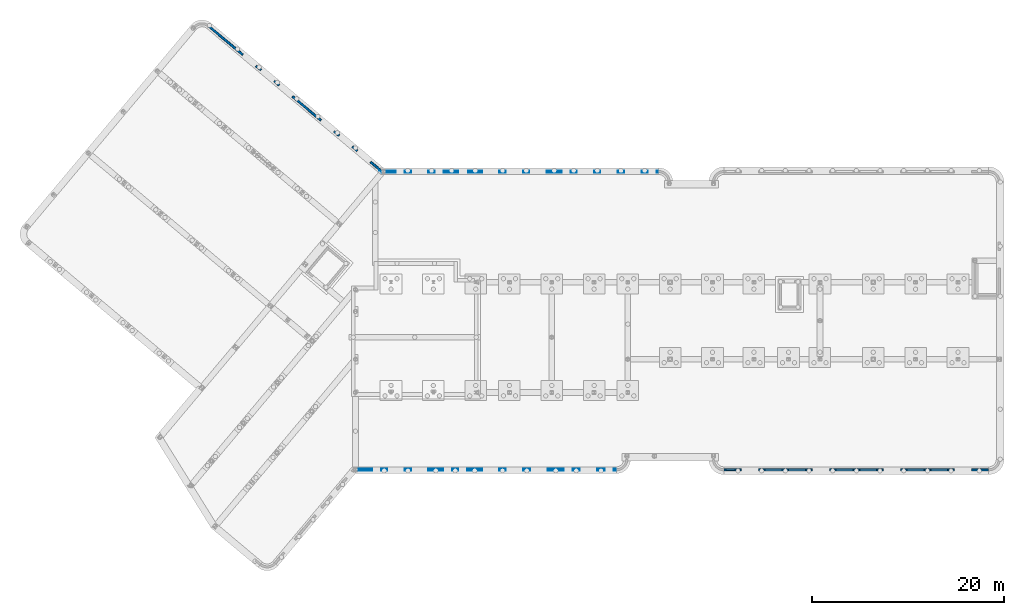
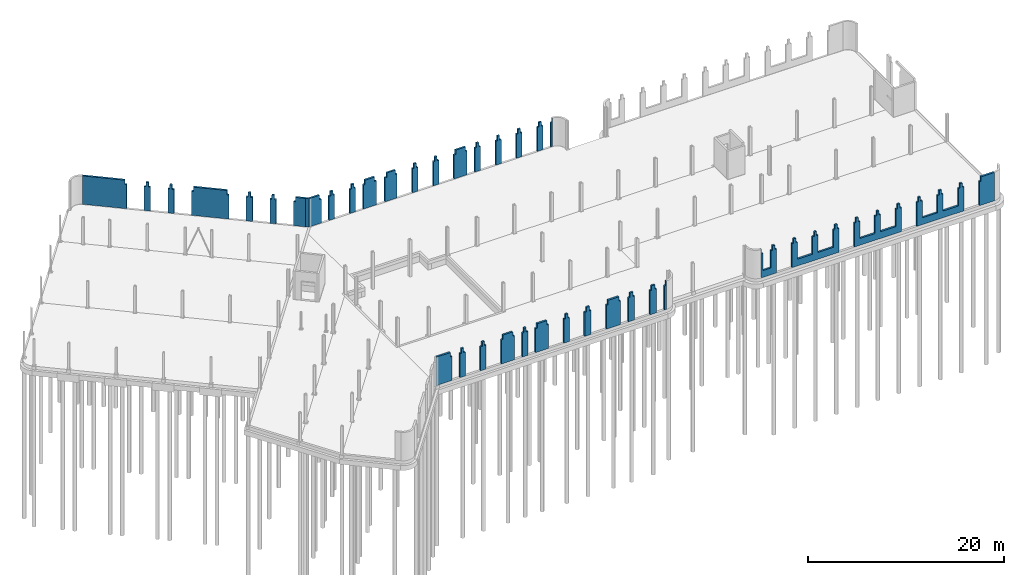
# One storey, part 25 of 26: 4 walls.
"""IFC2X3 building model written with IfcOpenShell, lengths in millimetres."""

from ifc_helpers import new_model, entity, si_unit, converted_unit, derived_unit, direction, frame, origin, place, context, subcontext, project, spatial, faceted_brep, material, layer, layer_set, type_object, element, save


model = new_model("IFC2X3")

# Units and contexts
model_context = context("Model", 3, precision=0.01, world=origin(), true_north=direction((6.123031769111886e-17, 1.0)))
body_context = subcontext(model_context, "Body", "Model", "MODEL_VIEW")
ifc_project = project(units=[si_unit("LENGTHUNIT", "METRE", prefix="MILLI"), si_unit("AREAUNIT", "SQUARE_METRE"), si_unit("VOLUMEUNIT", "CUBIC_METRE"), derived_unit("MASSDENSITYUNIT", [(si_unit("MASSUNIT", "GRAM", prefix="KILO"), 1), (si_unit("LENGTHUNIT", "METRE"), -3)]), si_unit("MASSUNIT", "GRAM", prefix="KILO"), converted_unit("PLANEANGLEUNIT", "DEGREE", entity("IfcPlaneAngleMeasure", 0.017453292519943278), si_unit("PLANEANGLEUNIT", "RADIAN"), dimensions=[0, 0, 0, 0, 0, 0, 0])], contexts=[model_context])

# Site, building, storey
site_placement = place(None, origin())
site = spatial("IfcSite", under=ifc_project, at=site_placement, Name="Default", CompositionType="ELEMENT")
building_placement = place(site_placement, origin())
building = spatial("IfcBuilding", under=site, at=building_placement, Name="AT constructie", CompositionType="ELEMENT")
storey_placement = place(building_placement, origin())
storey = spatial("IfcBuildingStorey", under=building, at=storey_placement, Name="00 begane grond", CompositionType="ELEMENT", Elevation=-1.0828671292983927e-12)

# Walls
ifc_material = material(Name="f1_kalkzandsteen_CS36")
ifc_layer = layer(ifc_material, 214.0)
ifc_layer_set = layer_set([ifc_layer], Name="Basic Wall:NLRS_22_WA_kalkzandsteen 214_CS36 gen_AT")
wall_type = type_object("IfcWallType", Name="NLRS_22_WA_kalkzandsteen 214_CS36 gen_AT", PredefinedType="STANDARD", material=ifc_layer_set)
wall_1_placement = place(storey_placement, frame((43613.949732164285, 42764.04350852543, -50.0)))
element("IfcWall", 1, at=wall_1_placement, inside=storey, type_object=wall_type, Name="Basic Wall:NLRS_22_WA_kalkzandsteen 214_CS36 gen_AT", ObjectType="Basic Wall:NLRS_22_WA_kalkzandsteen 214_CS36 gen_AT", context=body_context, shape_type="Brep", body=[
    faceted_brep([(1727.9248989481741, -107.0, 0.0), (1727.9248989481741, -107.0, 3000.0), (1537.9248989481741, -107.0, 3000.0), (1537.9248989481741, -107.0, 3544.0), (255.03526881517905, -107.0, 3544.0), (255.03526881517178, -107.0, 0.0), (0.0, 107.0, 0.0), (332.9248989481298, 107.0, 0.0), (1727.9248989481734, 107.0, 0.0), (1727.9248989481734, 107.0, 3000.0), (1537.9248989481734, 107.0, 3000.0), (1537.9248989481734, 107.0, 3544.0), (0.0, 107.0, 3544.0), (332.92489894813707, 107.0, 3544.0)], [[[0, 1, 2, 3, 4, 5]], [[5, 6, 7, 8, 0]], [[1, 0, 8, 9]], [[2, 10, 11, 3]], [[10, 2, 1, 9]], [[5, 4, 12, 6]], [[3, 11, 13, 12, 4]], [[9, 8, 7, 6, 12, 13, 11, 10]]]),
    faceted_brep([(29032.924898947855, 107.0, 3544.0), (29032.924898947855, 107.0, 0.0), (28837.924898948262, 107.0, 0.0), (28837.924898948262, 107.0, 3000.0), (29027.92489894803, 107.0, 3000.0), (29027.92489894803, 107.0, 3544.0), (29032.924898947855, -107.0, 3544.0), (29032.924898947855, -107.0, 0.0), (28837.924898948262, -107.0, 0.0), (28837.924898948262, -107.0, 3000.0), (29027.92489894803, -107.0, 3000.0), (29027.92489894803, -107.0, 3544.0)], [[[0, 1, 2, 3, 4, 5]], [[6, 7, 1, 0]], [[8, 9, 3, 2]], [[4, 10, 11, 5]], [[10, 4, 3, 9]], [[6, 0, 5, 11]], [[1, 7, 8, 2]], [[7, 6, 11, 10, 9, 8]]]),
    faceted_brep([(25257.924898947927, -107.0, 3544.0), (25257.924898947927, 107.0, 3544.0), (24987.924898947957, 107.0, 3544.0), (24987.924898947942, -107.0, 3544.0), (25257.924898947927, -107.0, 3000.0), (25257.924898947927, 107.0, 3000.0), (25447.924898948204, -107.0, 3000.0), (25447.924898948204, 107.0, 3000.0), (24987.924898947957, 107.0, 3000.0), (24987.924898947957, -107.0, 3000.0), (24797.92489894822, -107.0, 0.0), (24797.92489894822, -107.0, 3000.0), (24797.92489894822, 107.0, 3000.0), (24797.92489894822, 107.0, 0.0), (25447.924898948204, -107.0, 0.0), (25447.924898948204, 107.0, 0.0)], [[[0, 1, 2, 3]], [[4, 5, 1, 0]], [[5, 4, 6, 7]], [[8, 9, 3, 2]], [[10, 11, 12, 13]], [[6, 14, 15, 7]], [[9, 8, 12, 11]], [[14, 10, 13, 15]], [[1, 5, 7, 15, 13, 12, 8, 2]], [[4, 0, 3, 9, 11, 10, 14, 6]]]),
    faceted_brep([(2657.9248989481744, -107.0, 0.0), (2657.9248989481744, -107.0, 3000.0), (2657.9248989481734, 107.0, 3000.0), (2657.9248989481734, 107.0, 0.0), (3117.9248989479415, -107.0, 3000.0), (3117.9248989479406, 107.0, 3000.0), (3117.9248989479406, 107.0, 3544.0), (3117.9248989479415, -107.0, 3544.0), (3307.9248989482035, -107.0, 3000.0), (3307.9248989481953, 107.0, 3000.0), (2847.924898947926, 107.0, 3000.0), (2847.924898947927, -107.0, 3000.0), (2847.924898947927, -107.0, 3544.0), (2847.924898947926, 107.0, 3544.0), (3307.9248989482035, -107.0, 0.0), (3307.9248989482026, 107.0, 0.0)], [[[0, 1, 2, 3]], [[4, 5, 6, 7]], [[5, 4, 8, 9]], [[10, 11, 12, 13]], [[8, 14, 15, 9]], [[11, 10, 2, 1]], [[7, 6, 13, 12]], [[0, 3, 15, 14]], [[3, 2, 10, 13, 6, 5, 9, 15]], [[1, 0, 14, 8, 4, 7, 12, 11]]]),
    faceted_brep([(5577.924898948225, -107.0, 3000.0), (5577.924898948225, 107.0, 3000.0), (5577.924898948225, 107.0, 3544.0), (5577.924898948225, -107.0, 3544.0), (5767.924898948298, -107.0, 3000.0), (5767.924898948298, 107.0, 3000.0), (5307.924898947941, 107.0, 3000.0), (5307.924898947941, -107.0, 3000.0), (5307.924898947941, -107.0, 3544.0), (5307.924898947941, 107.0, 3544.0), (5117.924898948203, -107.0, 0.0), (5117.924898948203, -107.0, 3000.0), (5117.924898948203, 107.0, 3000.0), (5117.924898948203, 107.0, 0.0), (5767.924898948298, -107.0, 0.0), (5767.924898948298, 107.0, 0.0)], [[[0, 1, 2, 3]], [[1, 0, 4, 5]], [[6, 7, 8, 9]], [[10, 11, 12, 13]], [[4, 14, 15, 5]], [[7, 6, 12, 11]], [[3, 2, 9, 8]], [[14, 10, 13, 15]], [[2, 1, 5, 15, 13, 12, 6, 9]], [[0, 3, 8, 7, 11, 10, 14, 4]]]),
    faceted_brep([(6887.924898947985, 107.0, 3000.0), (6887.924898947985, -107.0, 3000.0), (6887.924898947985, -107.0, 3544.0), (6887.924898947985, 107.0, 3544.0), (8037.924898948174, -107.0, 3000.0), (8037.924898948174, 107.0, 3000.0), (8037.924898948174, 107.0, 3544.0), (8037.924898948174, -107.0, 3544.0), (8227.92489894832, -107.0, 3000.0), (8227.924898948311, 107.0, 3000.0), (6697.92489894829, -107.0, 0.0), (6697.92489894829, -107.0, 3000.0), (6697.92489894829, 107.0, 3000.0), (6697.92489894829, 107.0, 0.0), (8227.92489894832, -107.0, 0.0), (8227.924898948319, 107.0, 0.0)], [[[0, 1, 2, 3]], [[4, 5, 6, 7]], [[5, 4, 8, 9]], [[10, 11, 12, 13]], [[8, 14, 15, 9]], [[1, 0, 12, 11]], [[3, 2, 7, 6]], [[14, 10, 13, 15]], [[0, 3, 6, 5, 9, 15, 13, 12]], [[2, 1, 11, 10, 14, 8, 4, 7]]]),
    faceted_brep([(18764.914848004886, -107.0, 3000.0), (18764.914848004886, 107.0, 3000.0), (18764.914848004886, 107.0, 3544.0), (18764.914848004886, -107.0, 3544.0), (18954.914848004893, -107.0, 3000.0), (18954.914848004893, 107.0, 3000.0), (17607.924898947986, 107.0, 3000.0), (17607.924898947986, -107.0, 3000.0), (17607.924898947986, -107.0, 3544.0), (17607.924898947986, 107.0, 3544.0), (17417.924898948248, -107.0, 0.0), (17417.924898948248, -107.0, 3000.0), (17417.924898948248, 107.0, 3000.0), (17417.924898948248, 107.0, 0.0), (18954.914848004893, -107.0, 0.0), (18954.914848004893, 107.0, 0.0)], [[[0, 1, 2, 3]], [[1, 0, 4, 5]], [[6, 7, 8, 9]], [[10, 11, 12, 13]], [[4, 14, 15, 5]], [[7, 6, 12, 11]], [[3, 2, 9, 8]], [[14, 10, 13, 15]], [[2, 1, 5, 15, 13, 12, 6, 9]], [[0, 3, 8, 7, 11, 10, 14, 4]]]),
    faceted_brep([(20067.924898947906, 107.0, 3000.0), (20067.924898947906, -107.0, 3000.0), (20067.924898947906, -107.0, 3544.0), (20067.924898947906, 107.0, 3544.0), (20337.92489894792, -107.0, 3000.0), (20337.92489894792, 107.0, 3000.0), (20337.92489894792, 107.0, 3544.0), (20337.92489894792, -107.0, 3544.0), (20527.92489894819, -107.0, 3000.0), (20527.924898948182, 107.0, 3000.0), (19884.914848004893, -107.0, 0.0), (19884.914848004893, -107.0, 3000.0), (19884.914848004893, 107.0, 3000.0), (19884.914848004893, 107.0, 0.0), (20527.92489894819, -107.0, 0.0), (20527.92489894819, 107.0, 0.0)], [[[0, 1, 2, 3]], [[4, 5, 6, 7]], [[5, 4, 8, 9]], [[10, 11, 12, 13]], [[8, 14, 15, 9]], [[1, 0, 12, 11]], [[3, 2, 7, 6]], [[14, 10, 13, 15]], [[0, 3, 6, 5, 9, 15, 13, 12]], [[2, 1, 11, 10, 14, 8, 4, 7]]]),
    faceted_brep([(15417.924898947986, -107.0, 3000.0), (15417.924898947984, 107.0, 3000.0), (15417.924898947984, 107.0, 3544.0), (15417.924898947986, -107.0, 3544.0), (15607.92489894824, -107.0, 3000.0), (15607.924898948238, 107.0, 3000.0), (15147.924898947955, 107.0, 3000.0), (15147.924898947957, -107.0, 3000.0), (15147.924898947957, -107.0, 3544.0), (15147.924898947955, 107.0, 3544.0), (14957.924898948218, -107.0, 0.0), (14957.924898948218, -107.0, 3000.0), (14957.924898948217, 107.0, 3000.0), (14957.924898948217, 107.0, 0.0), (15607.924898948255, -107.0, 0.0), (15607.924898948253, 107.0, 0.0)], [[[0, 1, 2, 3]], [[1, 0, 4, 5]], [[6, 7, 8, 9]], [[10, 11, 12, 13]], [[4, 14, 15, 5]], [[7, 6, 12, 11]], [[3, 2, 9, 8]], [[14, 10, 13, 15]], [[2, 1, 5, 15, 13, 12, 6, 9]], [[0, 3, 8, 7, 11, 10, 14, 4]]]),
    faceted_brep([(12957.924898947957, -107.0, 3000.0), (12957.924898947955, 107.0, 3000.0), (12957.924898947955, 107.0, 3544.0), (12957.924898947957, -107.0, 3544.0), (13147.924898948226, -107.0, 3000.0), (13147.92489894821, 107.0, 3000.0), (12687.924898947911, 107.0, 3000.0), (12687.924898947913, -107.0, 3000.0), (12687.924898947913, -107.0, 3544.0), (12687.924898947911, 107.0, 3544.0), (12497.924898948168, -107.0, 0.0), (12497.924898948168, -107.0, 3000.0), (12497.924898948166, 107.0, 3000.0), (12497.924898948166, 107.0, 0.0), (13147.924898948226, -107.0, 0.0), (13147.924898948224, 107.0, 0.0)], [[[0, 1, 2, 3]], [[1, 0, 4, 5]], [[6, 7, 8, 9]], [[10, 11, 12, 13]], [[4, 14, 15, 5]], [[7, 6, 12, 11]], [[3, 2, 9, 8]], [[14, 10, 13, 15]], [[2, 1, 5, 15, 13, 12, 6, 9]], [[0, 3, 8, 7, 11, 10, 14, 4]]]),
    faceted_brep([(10497.924898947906, -107.0, 3000.0), (10497.924898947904, 107.0, 3000.0), (10497.924898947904, 107.0, 3544.0), (10497.924898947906, -107.0, 3544.0), (10687.924898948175, -107.0, 3000.0), (10687.924898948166, 107.0, 3000.0), (9467.924898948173, 107.0, 3000.0), (9467.924898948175, -107.0, 3000.0), (9467.924898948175, -107.0, 3544.0), (9467.924898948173, 107.0, 3544.0), (9277.924898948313, -107.0, 0.0), (9277.924898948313, -107.0, 3000.0), (9277.924898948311, 107.0, 3000.0), (9277.924898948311, 107.0, 0.0), (10687.924898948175, -107.0, 0.0), (10687.924898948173, 107.0, 0.0)], [[[0, 1, 2, 3]], [[1, 0, 4, 5]], [[6, 7, 8, 9]], [[10, 11, 12, 13]], [[4, 14, 15, 5]], [[7, 6, 12, 11]], [[3, 2, 9, 8]], [[14, 10, 13, 15]], [[2, 1, 5, 15, 13, 12, 6, 9]], [[0, 3, 8, 7, 11, 10, 14, 4]]]),
    faceted_brep([(27447.924898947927, 107.0, 3000.0), (27447.924898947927, -107.0, 3000.0), (27447.924898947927, -107.0, 3544.0), (27447.924898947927, 107.0, 3544.0), (27257.92489894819, -107.0, 0.0), (27257.92489894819, -107.0, 3000.0), (27257.92489894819, 107.0, 3000.0), (27257.92489894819, 107.0, 0.0), (27907.924898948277, -107.0, 3000.0), (27907.924898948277, -107.0, 0.0), (27907.924898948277, 107.0, 0.0), (27907.924898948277, 107.0, 3000.0), (27717.924898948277, -107.0, 3000.0), (27717.924898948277, 107.0, 3000.0), (27717.924898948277, 107.0, 3544.0), (27717.924898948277, -107.0, 3544.0)], [[[0, 1, 2, 3]], [[4, 5, 6, 7]], [[8, 9, 10, 11]], [[12, 13, 14, 15]], [[13, 12, 8, 11]], [[1, 0, 6, 5]], [[3, 2, 15, 14]], [[4, 7, 10, 9]], [[0, 3, 14, 13, 11, 10, 7, 6]], [[2, 1, 5, 4, 9, 8, 12, 15]]]),
    faceted_brep([(22797.924898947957, -107.0, 3000.0), (22797.924898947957, 107.0, 3000.0), (22797.924898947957, 107.0, 3544.0), (22797.924898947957, -107.0, 3544.0), (22987.92489894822, -107.0, 3000.0), (22987.92489894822, 107.0, 3000.0), (22527.924898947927, 107.0, 3000.0), (22527.924898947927, -107.0, 3000.0), (22527.924898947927, -107.0, 3544.0), (22527.924898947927, 107.0, 3544.0), (22337.92489894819, -107.0, 0.0), (22337.92489894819, -107.0, 3000.0), (22337.92489894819, 107.0, 3000.0), (22337.92489894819, 107.0, 0.0), (22987.92489894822, -107.0, 0.0), (22987.92489894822, 107.0, 0.0)], [[[0, 1, 2, 3]], [[1, 0, 4, 5]], [[6, 7, 8, 9]], [[10, 11, 12, 13]], [[4, 14, 15, 5]], [[7, 6, 12, 11]], [[3, 2, 9, 8]], [[14, 10, 13, 15]], [[2, 1, 5, 15, 13, 12, 6, 9]], [[0, 3, 8, 7, 11, 10, 14, 4]]]),
])
wall_2_placement = place(storey_placement, frame((25914.3541657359, 57862.446200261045, -50.0), z_axis=(0.0, 0.0, 1.0), x_axis=(0.7660444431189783, -0.642787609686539, 0.0)))
element("IfcWall", 2, at=wall_2_placement, inside=storey, type_object=wall_type, Name="Basic Wall:NLRS_22_WA_kalkzandsteen 214_CS36 gen_AT", ObjectType="Basic Wall:NLRS_22_WA_kalkzandsteen 214_CS36 gen_AT", context=body_context, shape_type="Brep", body=[
    faceted_brep([(0.0, -107.0, 3544.0), (0.0, -107.0, 0.0), (4610.0, -107.0, 0.0), (4610.0, -107.0, 3000.0), (4420.0, -107.0, 3000.0), (4420.0, -107.0, 3544.0), (0.0, 107.0, 0.0), (4610.0, 107.0, 0.0), (0.0, 107.0, 3544.0), (4420.0, 107.0, 3000.0), (4420.0, 107.0, 3544.0), (4610.0, 107.0, 3000.0)], [[[0, 1, 2, 3, 4, 5]], [[1, 6, 7, 2]], [[1, 0, 8, 6]], [[4, 9, 10, 5]], [[9, 4, 3, 11]], [[3, 2, 7, 11]], [[8, 0, 5, 10]], [[6, 8, 10, 9, 11, 7]]]),
    faceted_brep([(23450.0, 107.0, 3544.0), (23450.0, 107.0, 0.0), (21939.99842534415, 107.0, 0.0), (21939.99842534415, 107.0, 3000.0), (22129.99842534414, 107.0, 3000.0), (22129.998425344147, 107.0, 3544.0), (23194.964731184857, -107.0, 3544.0), (22129.998425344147, -107.0, 3544.0), (23194.964731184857, -107.0, 0.0), (22129.99842534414, -107.0, 3000.0), (21939.998425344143, -107.0, 0.0), (21939.99842534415, -107.0, 3000.0)], [[[0, 1, 2, 3, 4, 5]], [[6, 0, 5, 7]], [[6, 8, 1, 0]], [[4, 9, 7, 5]], [[10, 11, 3, 2]], [[9, 4, 3, 11]], [[1, 8, 10, 2]], [[8, 6, 7, 9, 11, 10]]]),
    faceted_brep([(6880.0, -107.0, 3000.0), (6880.0, 107.0, 3000.0), (6880.0, 107.0, 3544.0), (6880.0, -107.0, 3544.0), (7070.0, -107.0, 3000.0), (7070.0, 107.0, 3000.0), (6610.0, 107.0, 3000.0), (6610.0, -107.0, 3000.0), (6610.0, -107.0, 3544.0), (6610.0, 107.0, 3544.0), (6420.0, -107.0, 0.0), (6420.0, -107.0, 3000.0), (6420.0, 107.0, 3000.0), (6420.0, 107.0, 0.0), (7070.0, -107.0, 0.0), (7070.0, 107.0, 0.0)], [[[0, 1, 2, 3]], [[1, 0, 4, 5]], [[6, 7, 8, 9]], [[10, 11, 12, 13]], [[4, 14, 15, 5]], [[7, 6, 12, 11]], [[3, 2, 9, 8]], [[14, 10, 13, 15]], [[2, 1, 5, 15, 13, 12, 6, 9]], [[0, 3, 8, 7, 11, 10, 14, 4]]]),
    faceted_brep([(9070.0, 107.0, 3000.0), (9070.0, -107.0, 3000.0), (9070.0, -107.0, 3544.0), (9070.0, 107.0, 3544.0), (9340.0, -107.0, 3000.0), (9340.0, 107.0, 3000.0), (9340.0, 107.0, 3544.0), (9340.0, -107.0, 3544.0), (9530.0, -107.0, 3000.0), (9530.0, 107.0, 3000.0), (8880.0, -107.0, 0.0), (8880.0, -107.0, 3000.0), (8880.0, 107.0, 3000.0), (8880.0, 107.0, 0.0), (9530.0, -107.0, 0.0), (9530.0, 107.0, 0.0)], [[[0, 1, 2, 3]], [[4, 5, 6, 7]], [[5, 4, 8, 9]], [[10, 11, 12, 13]], [[8, 14, 15, 9]], [[1, 0, 12, 11]], [[3, 2, 7, 6]], [[14, 10, 13, 15]], [[0, 3, 6, 5, 9, 15, 13, 12]], [[2, 1, 11, 10, 14, 8, 4, 7]]]),
    faceted_brep([(19939.99842534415, -107.0, 3000.0), (19939.998425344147, 107.0, 3000.0), (19939.998425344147, 107.0, 3544.0), (19939.99842534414, -107.0, 3544.0), (20129.99842534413, -107.0, 3000.0), (20129.998425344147, 107.0, 3000.0), (19669.998425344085, 107.0, 3000.0), (19669.998425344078, -107.0, 3000.0), (19669.998425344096, -107.0, 3544.0), (19669.998425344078, 107.0, 3544.0), (19479.998425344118, -107.0, 0.0), (19479.998425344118, -107.0, 3000.0), (19479.998425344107, 107.0, 3000.0), (19479.998425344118, 107.0, 0.0), (20129.99842534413, -107.0, 0.0), (20129.998425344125, 107.0, 0.0)], [[[0, 1, 2, 3]], [[1, 0, 4, 5]], [[6, 7, 8, 9]], [[10, 11, 12, 13]], [[4, 14, 15, 5]], [[7, 6, 12, 11]], [[3, 2, 9, 8]], [[14, 10, 13, 15]], [[2, 1, 5, 15, 13, 12, 6, 9]], [[0, 3, 8, 7, 11, 10, 14, 4]]]),
    faceted_brep([(17479.9984253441, -107.0, 3000.0), (17479.99842534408, 107.0, 3000.0), (17479.99842534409, 107.0, 3544.0), (17479.998425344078, -107.0, 3544.0), (17669.998425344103, -107.0, 3000.0), (17669.998425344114, 107.0, 3000.0), (17209.998425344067, 107.0, 3000.0), (17209.99842534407, -107.0, 3000.0), (17209.998425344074, -107.0, 3544.0), (17209.998425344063, 107.0, 3544.0), (17019.998425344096, -107.0, 0.0), (17019.998425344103, -107.0, 3000.0), (17019.99842534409, 107.0, 3000.0), (17019.9984253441, 107.0, 0.0), (17669.998425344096, -107.0, 0.0), (17669.998425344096, 107.0, 0.0)], [[[0, 1, 2, 3]], [[1, 0, 4, 5]], [[6, 7, 8, 9]], [[10, 11, 12, 13]], [[4, 14, 15, 5]], [[7, 6, 12, 11]], [[3, 2, 9, 8]], [[14, 10, 13, 15]], [[2, 1, 5, 15, 13, 12, 6, 9]], [[0, 3, 8, 7, 11, 10, 14, 4]]]),
    faceted_brep([(15019.998425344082, -107.0, 3000.0), (15019.998425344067, 107.0, 3000.0), (15019.99842534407, 107.0, 3544.0), (15019.998425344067, -107.0, 3544.0), (15209.998425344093, -107.0, 3000.0), (15209.998425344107, 107.0, 3000.0), (11530.0, 107.0, 3000.0), (11530.0, -107.0, 3000.0), (11530.0, -107.0, 3544.0), (11530.0, 107.0, 3544.0), (11340.0, -107.0, 0.0), (11340.0, -107.0, 3000.0), (11340.0, 107.0, 3000.0), (11340.0, 107.0, 0.0), (15209.998425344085, -107.0, 0.0), (15209.998425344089, 107.0, 0.0)], [[[0, 1, 2, 3]], [[1, 0, 4, 5]], [[6, 7, 8, 9]], [[10, 11, 12, 13]], [[4, 14, 15, 5]], [[7, 6, 12, 11]], [[3, 2, 9, 8]], [[14, 10, 13, 15]], [[2, 1, 5, 15, 13, 12, 6, 9]], [[0, 3, 8, 7, 11, 10, 14, 4]]]),
])
wall_3_placement = place(storey_placement, frame((79446.87463111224, 11778.043508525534, -50.0)))
element("IfcWall", 3, at=wall_3_placement, inside=storey, type_object=wall_type, Name="Basic Wall:NLRS_22_WA_kalkzandsteen 214_CS36 gen_AT", ObjectType="Basic Wall:NLRS_22_WA_kalkzandsteen 214_CS36 gen_AT", context=body_context, shape_type="Brep", body=[
    faceted_brep([(0.0, -107.0, 3544.0), (0.0, -107.0, 0.0), (1775.0, -107.0, 0.0), (1775.0, -107.0, 3000.0), (1585.0, -107.0, 3000.0), (1585.0, -107.0, 3544.0), (1315.0, -107.0, 3544.0), (1315.0, -107.0, 3000.0), (1125.0, -107.0, 3000.0), (1125.0, -107.0, 850.0), (195.0, -107.0, 850.0), (195.0, -107.0, 3000.0), (5.0, -107.0, 3000.0), (5.0, -107.0, 3544.0), (0.0, 107.0, 0.0), (1775.0, 107.0, 0.0), (0.0, 107.0, 3544.0), (1125.0, 107.0, 850.0), (195.0, 107.0, 850.0), (1125.0, 107.0, 3000.0), (195.0, 107.0, 3000.0), (1585.0, 107.0, 3000.0), (1585.0, 107.0, 3544.0), (1775.0, 107.0, 3000.0), (5.0, 107.0, 3000.0), (5.0, 107.0, 3544.0), (1315.0, 107.0, 3000.0), (1315.0, 107.0, 3544.0)], [[[0, 1, 2, 3, 4, 5, 6, 7, 8, 9, 10, 11, 12, 13]], [[1, 14, 15, 2]], [[1, 0, 16, 14]], [[9, 17, 18, 10]], [[17, 9, 8, 19]], [[10, 18, 20, 11]], [[4, 21, 22, 5]], [[21, 4, 3, 23]], [[12, 24, 25, 13]], [[26, 7, 6, 27]], [[24, 12, 11, 20]], [[3, 2, 15, 23]], [[7, 26, 19, 8]], [[5, 22, 27, 6]], [[16, 0, 13, 25]], [[14, 16, 25, 24, 20, 18, 17, 19, 26, 27, 22, 21, 23, 15]]]),
    faceted_brep([(27500.0, 107.0, 3544.0), (27500.0, 107.0, 0.0), (25725.0, 107.0, 0.0), (25725.0, 107.0, 3000.0), (25915.0, 107.0, 3000.0), (25915.0, 107.0, 3544.0), (27500.0, -107.0, 3544.0), (27500.0, -107.0, 0.0), (25915.0, -107.0, 3000.0), (25915.0, -107.0, 3544.0), (25725.0, -107.0, 0.0), (25725.0, -107.0, 3000.0)], [[[0, 1, 2, 3, 4, 5]], [[6, 7, 1, 0]], [[4, 8, 9, 5]], [[10, 11, 3, 2]], [[8, 4, 3, 11]], [[6, 0, 5, 9]], [[1, 7, 10, 2]], [[7, 6, 9, 8, 11, 10]]]),
    faceted_brep([(23725.0, -107.0, 3544.0), (23725.0, 107.0, 3544.0), (23455.0, 107.0, 3544.0), (23455.0, -107.0, 3544.0), (23725.0, -107.0, 3000.0), (23725.0, 107.0, 3000.0), (23915.0, -107.0, 3000.0), (23915.0, 107.0, 3000.0), (21265.0, -107.0, 3000.0), (21265.0, 107.0, 3000.0), (21265.0, 107.0, 3544.0), (21265.0, -107.0, 3544.0), (23455.0, 107.0, 3000.0), (23455.0, -107.0, 3000.0), (21455.0, -107.0, 3000.0), (21455.0, 107.0, 3000.0), (18805.0, -107.0, 3000.0), (18805.0, 107.0, 3000.0), (18805.0, 107.0, 3544.0), (18805.0, -107.0, 3544.0), (20995.0, 107.0, 3000.0), (20995.0, -107.0, 3000.0), (20995.0, -107.0, 3544.0), (20995.0, 107.0, 3544.0), (18995.0, -107.0, 3000.0), (18995.0, 107.0, 3000.0), (18535.0, 107.0, 3000.0), (18535.0, -107.0, 3000.0), (18535.0, -107.0, 3544.0), (18535.0, 107.0, 3544.0), (18345.0, -107.0, 0.0), (18345.0, -107.0, 3000.0), (18345.0, 107.0, 3000.0), (18345.0, 107.0, 0.0), (18995.0, -107.0, 850.0), (18995.0, 107.0, 850.0), (20805.0, -107.0, 850.0), (20805.0, -107.0, 3000.0), (20805.0, 107.0, 3000.0), (20805.0, 107.0, 850.0), (21455.0, -107.0, 850.0), (21455.0, 107.0, 850.0), (23265.0, -107.0, 850.0), (23265.0, -107.0, 3000.0), (23265.0, 107.0, 3000.0), (23265.0, 107.0, 850.0), (23915.0, -107.0, 0.0), (23915.0, 107.0, 0.0)], [[[0, 1, 2, 3]], [[4, 5, 1, 0]], [[5, 4, 6, 7]], [[8, 9, 10, 11]], [[12, 13, 3, 2]], [[9, 8, 14, 15]], [[16, 17, 18, 19]], [[20, 21, 22, 23]], [[17, 16, 24, 25]], [[26, 27, 28, 29]], [[30, 31, 32, 33]], [[24, 34, 35, 25]], [[36, 37, 38, 39]], [[14, 40, 41, 15]], [[42, 43, 44, 45]], [[6, 46, 47, 7]], [[35, 34, 36, 39]], [[41, 40, 42, 45]], [[27, 26, 32, 31]], [[21, 20, 38, 37]], [[13, 12, 44, 43]], [[11, 10, 23, 22]], [[19, 18, 29, 28]], [[30, 33, 47, 46]], [[1, 5, 7, 47, 33, 32, 26, 29, 18, 17, 25, 35, 39, 38, 20, 23, 10, 9, 15, 41, 45, 44, 12, 2]], [[4, 0, 3, 13, 43, 42, 40, 14, 8, 11, 22, 21, 37, 36, 34, 24, 16, 19, 28, 27, 31, 30, 46, 6]]]),
    faceted_brep([(4045.0, -107.0, 3000.0), (4045.0, 107.0, 3000.0), (4045.0, 107.0, 3544.0), (4045.0, -107.0, 3544.0), (6235.0, 107.0, 3000.0), (6235.0, -107.0, 3000.0), (6235.0, -107.0, 3544.0), (6235.0, 107.0, 3544.0), (4235.0, -107.0, 3000.0), (4235.0, 107.0, 3000.0), (8965.0, -107.0, 3000.0), (8965.0, 107.0, 3000.0), (8965.0, 107.0, 3544.0), (8965.0, -107.0, 3544.0), (9155.0, -107.0, 3000.0), (9155.0, 107.0, 3000.0), (6505.0, -107.0, 3000.0), (6505.0, 107.0, 3000.0), (6505.0, 107.0, 3544.0), (6505.0, -107.0, 3544.0), (8695.0, 107.0, 3000.0), (8695.0, -107.0, 3000.0), (8695.0, -107.0, 3544.0), (8695.0, 107.0, 3544.0), (6695.0, -107.0, 3000.0), (6695.0, 107.0, 3000.0), (3775.0, 107.0, 3000.0), (3775.0, -107.0, 3000.0), (3775.0, -107.0, 3544.0), (3775.0, 107.0, 3544.0), (3585.0, -107.0, 0.0), (3585.0, -107.0, 3000.0), (3585.0, 107.0, 3000.0), (3585.0, 107.0, 0.0), (4235.0, -107.0, 850.0), (4235.0, 107.0, 850.0), (6045.0, -107.0, 850.0), (6045.0, -107.0, 3000.0), (6045.0, 107.0, 3000.0), (6045.0, 107.0, 850.0), (6695.0, -107.0, 850.0), (6695.0, 107.0, 850.0), (8505.0, -107.0, 850.0), (8505.0, -107.0, 3000.0), (8505.0, 107.0, 3000.0), (8505.0, 107.0, 850.0), (9155.0, -107.0, 0.0), (9155.0, 107.0, 0.0)], [[[0, 1, 2, 3]], [[4, 5, 6, 7]], [[1, 0, 8, 9]], [[10, 11, 12, 13]], [[11, 10, 14, 15]], [[16, 17, 18, 19]], [[20, 21, 22, 23]], [[17, 16, 24, 25]], [[26, 27, 28, 29]], [[30, 31, 32, 33]], [[8, 34, 35, 9]], [[36, 37, 38, 39]], [[24, 40, 41, 25]], [[42, 43, 44, 45]], [[14, 46, 47, 15]], [[35, 34, 36, 39]], [[41, 40, 42, 45]], [[27, 26, 32, 31]], [[21, 20, 44, 43]], [[5, 4, 38, 37]], [[13, 12, 23, 22]], [[3, 2, 29, 28]], [[7, 6, 19, 18]], [[30, 33, 47, 46]], [[2, 1, 9, 35, 39, 38, 4, 7, 18, 17, 25, 41, 45, 44, 20, 23, 12, 11, 15, 47, 33, 32, 26, 29]], [[0, 3, 28, 27, 31, 30, 46, 14, 10, 13, 22, 21, 43, 42, 40, 24, 16, 19, 6, 5, 37, 36, 34, 8]]]),
    faceted_brep([(16345.0, -107.0, 3000.0), (16345.0, 107.0, 3000.0), (16345.0, 107.0, 3544.0), (16345.0, -107.0, 3544.0), (16535.0, -107.0, 3000.0), (16535.0, 107.0, 3000.0), (13885.0, -107.0, 3000.0), (13885.0, 107.0, 3000.0), (13885.0, 107.0, 3544.0), (13885.0, -107.0, 3544.0), (16075.0, 107.0, 3000.0), (16075.0, -107.0, 3000.0), (16075.0, -107.0, 3544.0), (16075.0, 107.0, 3544.0), (14075.0, -107.0, 3000.0), (14075.0, 107.0, 3000.0), (11425.0, -107.0, 3000.0), (11425.0, 107.0, 3000.0), (11425.0, 107.0, 3544.0), (11425.0, -107.0, 3544.0), (13615.0, 107.0, 3000.0), (13615.0, -107.0, 3000.0), (13615.0, -107.0, 3544.0), (13615.0, 107.0, 3544.0), (11615.0, -107.0, 3000.0), (11615.0, 107.0, 3000.0), (11155.0, 107.0, 3000.0), (11155.0, -107.0, 3000.0), (11155.0, -107.0, 3544.0), (11155.0, 107.0, 3544.0), (10965.0, -107.0, 0.0), (10965.0, -107.0, 3000.0), (10965.0, 107.0, 3000.0), (10965.0, 107.0, 0.0), (11615.0, -107.0, 850.0), (11615.0, 107.0, 850.0), (13425.0, -107.0, 850.0), (13425.0, -107.0, 3000.0), (13425.0, 107.0, 3000.0), (13425.0, 107.0, 850.0), (14075.0, -107.0, 850.0), (14075.0, 107.0, 850.0), (15885.0, -107.0, 850.0), (15885.0, -107.0, 3000.0), (15885.0, 107.0, 3000.0), (15885.0, 107.0, 850.0), (16535.0, -107.0, 0.0), (16535.0, 107.0, 0.0)], [[[0, 1, 2, 3]], [[1, 0, 4, 5]], [[6, 7, 8, 9]], [[10, 11, 12, 13]], [[7, 6, 14, 15]], [[16, 17, 18, 19]], [[20, 21, 22, 23]], [[17, 16, 24, 25]], [[26, 27, 28, 29]], [[30, 31, 32, 33]], [[24, 34, 35, 25]], [[36, 37, 38, 39]], [[14, 40, 41, 15]], [[42, 43, 44, 45]], [[4, 46, 47, 5]], [[35, 34, 36, 39]], [[41, 40, 42, 45]], [[27, 26, 32, 31]], [[21, 20, 38, 37]], [[11, 10, 44, 43]], [[3, 2, 13, 12]], [[9, 8, 23, 22]], [[19, 18, 29, 28]], [[30, 33, 47, 46]], [[2, 1, 5, 47, 33, 32, 26, 29, 18, 17, 25, 35, 39, 38, 20, 23, 8, 7, 15, 41, 45, 44, 10, 13]], [[0, 3, 12, 11, 43, 42, 40, 14, 6, 9, 22, 21, 37, 36, 34, 24, 16, 19, 28, 27, 31, 30, 46, 4]]]),
])
wall_4_placement = place(storey_placement, frame((68246.87463111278, 11778.043508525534, -50.0), z_axis=(0.0, 0.0, 1.0), x_axis=(-1.0, 0.0, 0.0)))
element("IfcWall", 4, at=wall_4_placement, inside=storey, type_object=wall_type, Name="Basic Wall:NLRS_22_WA_kalkzandsteen 214_CS36 gen_AT", ObjectType="Basic Wall:NLRS_22_WA_kalkzandsteen 214_CS36 gen_AT", context=body_context, shape_type="Brep", body=[
    faceted_brep([(0.0, -107.0, 3544.0), (0.0, -107.0, 0.0), (275.0, -107.0, 0.0), (275.0, -107.0, 3000.0), (85.0, -107.0, 3000.0), (85.0, -107.0, 3544.0), (0.0, 107.0, 0.0), (275.0, 107.0, 0.0), (0.0, 107.0, 3544.0), (275.0, 107.0, 3000.0), (85.0, 107.0, 3000.0), (85.0, 107.0, 3544.0)], [[[0, 1, 2, 3, 4, 5]], [[1, 6, 7, 2]], [[1, 0, 8, 6]], [[3, 2, 7, 9]], [[4, 10, 11, 5]], [[10, 4, 3, 9]], [[8, 0, 5, 11]], [[6, 8, 11, 10, 9, 7]]]),
    faceted_brep([(25555.0, 107.0, 3544.0), (27243.658742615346, 107.0, 3544.0), (27243.658742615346, 107.0, 0.0), (25365.0, 107.0, 0.0), (25365.0, 107.0, 3000.0), (25555.0, 107.0, 3000.0), (25555.0, -107.0, 3544.0), (27064.091421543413, -107.0, 3544.0), (27168.466361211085, 17.389209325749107, 3544.0), (25555.0, -107.0, 3000.0), (27064.091421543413, -107.0, 0.0), (25365.0, -107.0, 0.0), (25365.0, -107.0, 3000.0)], [[[0, 1, 2, 3, 4, 5]], [[6, 7, 8, 1, 0]], [[5, 9, 6, 0]], [[7, 10, 2, 1, 8]], [[11, 12, 4, 3]], [[9, 5, 4, 12]], [[2, 10, 11, 3]], [[7, 6, 9, 12, 11, 10]]]),
    faceted_brep([(1205.0, -107.0, 0.0), (1205.0, -107.0, 3000.0), (1205.0, 107.0, 3000.0), (1205.0, 107.0, 0.0), (1775.0, -107.0, 3000.0), (1775.0, 107.0, 3000.0), (1775.0, 107.0, 3544.0), (1775.0, -107.0, 3544.0), (1965.0, -107.0, 3000.0), (1965.0, 107.0, 3000.0), (1395.0, 107.0, 3000.0), (1395.0, -107.0, 3000.0), (1395.0, -107.0, 3544.0), (1395.0, 107.0, 3544.0), (1965.0, -107.0, 0.0), (1965.0, 107.0, 0.0)], [[[0, 1, 2, 3]], [[4, 5, 6, 7]], [[5, 4, 8, 9]], [[10, 11, 12, 13]], [[8, 14, 15, 9]], [[11, 10, 2, 1]], [[7, 6, 13, 12]], [[0, 3, 15, 14]], [[3, 2, 10, 13, 6, 5, 9, 15]], [[1, 0, 14, 8, 4, 7, 12, 11]]]),
    faceted_brep([(4345.0, -107.0, 3000.0), (4345.0, 107.0, 3000.0), (4345.0, 107.0, 3544.0), (4345.0, -107.0, 3544.0), (4535.0, -107.0, 3000.0), (4535.0, 107.0, 3000.0), (3965.0, 107.0, 3000.0), (3965.0, -107.0, 3000.0), (3965.0, -107.0, 3544.0), (3965.0, 107.0, 3544.0), (3775.0, -107.0, 0.0), (3775.0, -107.0, 3000.0), (3775.0, 107.0, 3000.0), (3775.0, 107.0, 0.0), (4535.0, -107.0, 0.0), (4535.0, 107.0, 0.0)], [[[0, 1, 2, 3]], [[1, 0, 4, 5]], [[6, 7, 8, 9]], [[10, 11, 12, 13]], [[4, 14, 15, 5]], [[7, 6, 12, 11]], [[3, 2, 9, 8]], [[14, 10, 13, 15]], [[2, 1, 5, 15, 13, 12, 6, 9]], [[0, 3, 8, 7, 11, 10, 14, 4]]]),
    faceted_brep([(5655.0, 107.0, 3000.0), (5655.0, -107.0, 3000.0), (5655.0, -107.0, 3544.0), (5655.0, 107.0, 3544.0), (6915.0, -107.0, 3000.0), (6915.0, 107.0, 3000.0), (6915.0, 107.0, 3544.0), (6915.0, -107.0, 3544.0), (7105.0, -107.0, 3000.0), (7105.0, 107.0, 3000.0), (5465.0, -107.0, 0.0), (5465.0, -107.0, 3000.0), (5465.0, 107.0, 3000.0), (5465.0, 107.0, 0.0), (7105.0, -107.0, 0.0), (7105.0, 107.0, 0.0)], [[[0, 1, 2, 3]], [[4, 5, 6, 7]], [[5, 4, 8, 9]], [[10, 11, 12, 13]], [[8, 14, 15, 9]], [[1, 0, 12, 11]], [[3, 2, 7, 6]], [[14, 10, 13, 15]], [[0, 3, 6, 5, 9, 15, 13, 12]], [[2, 1, 11, 10, 14, 8, 4, 7]]]),
    faceted_brep([(9105.0, 107.0, 3000.0), (9105.0, -107.0, 3000.0), (9105.0, -107.0, 3544.0), (9105.0, 107.0, 3544.0), (9485.0, -107.0, 3000.0), (9485.0, 107.0, 3000.0), (9485.0, 107.0, 3544.0), (9485.0, -107.0, 3544.0), (9675.0, -107.0, 3000.0), (9675.0, 107.0, 3000.0), (8915.0, -107.0, 0.0), (8915.0, -107.0, 3000.0), (8915.0, 107.0, 3000.0), (8915.0, 107.0, 0.0), (9675.0, -107.0, 0.0), (9675.0, 107.0, 0.0)], [[[0, 1, 2, 3]], [[4, 5, 6, 7]], [[5, 4, 8, 9]], [[10, 11, 12, 13]], [[8, 14, 15, 9]], [[1, 0, 12, 11]], [[3, 2, 7, 6]], [[14, 10, 13, 15]], [[0, 3, 6, 5, 9, 15, 13, 12]], [[2, 1, 11, 10, 14, 8, 4, 7]]]),
    faceted_brep([(24245.0, -107.0, 3000.0), (24245.0, 107.0, 3000.0), (24245.0, 107.0, 3544.0), (24245.0, -107.0, 3544.0), (24435.0, -107.0, 3000.0), (24435.0, 107.0, 3000.0), (23975.0, 107.0, 3000.0), (23975.0, -107.0, 3000.0), (23975.0, -107.0, 3544.0), (23975.0, 107.0, 3544.0), (23785.0, -107.0, 0.0), (23785.0, -107.0, 3000.0), (23785.0, 107.0, 3000.0), (23785.0, 107.0, 0.0), (24435.0, -107.0, 0.0), (24435.0, 107.0, 0.0)], [[[0, 1, 2, 3]], [[1, 0, 4, 5]], [[6, 7, 8, 9]], [[10, 11, 12, 13]], [[4, 14, 15, 5]], [[7, 6, 12, 11]], [[3, 2, 9, 8]], [[14, 10, 13, 15]], [[2, 1, 5, 15, 13, 12, 6, 9]], [[0, 3, 8, 7, 11, 10, 14, 4]]]),
    faceted_brep([(21785.0, -107.0, 3000.0), (21785.0, 107.0, 3000.0), (21785.0, 107.0, 3544.0), (21785.0, -107.0, 3544.0), (21975.0, -107.0, 3000.0), (21975.0, 107.0, 3000.0), (21515.0, 107.0, 3000.0), (21515.0, -107.0, 3000.0), (21515.0, -107.0, 3544.0), (21515.0, 107.0, 3544.0), (21325.0, -107.0, 0.0), (21325.0, -107.0, 3000.0), (21325.0, 107.0, 3000.0), (21325.0, 107.0, 0.0), (21975.0, -107.0, 0.0), (21975.0, 107.0, 0.0)], [[[0, 1, 2, 3]], [[1, 0, 4, 5]], [[6, 7, 8, 9]], [[10, 11, 12, 13]], [[4, 14, 15, 5]], [[7, 6, 12, 11]], [[3, 2, 9, 8]], [[14, 10, 13, 15]], [[2, 1, 5, 15, 13, 12, 6, 9]], [[0, 3, 8, 7, 11, 10, 14, 4]]]),
    faceted_brep([(19325.0, -107.0, 3000.0), (19325.0, 107.0, 3000.0), (19325.0, 107.0, 3544.0), (19325.0, -107.0, 3544.0), (19515.0, -107.0, 3000.0), (19515.0, 107.0, 3000.0), (18175.0, 107.0, 3000.0), (18175.0, -107.0, 3000.0), (18175.0, -107.0, 3544.0), (18175.0, 107.0, 3544.0), (17985.0, -107.0, 0.0), (17985.0, -107.0, 3000.0), (17985.0, 107.0, 3000.0), (17985.0, 107.0, 0.0), (19515.0, -107.0, 0.0), (19515.0, 107.0, 0.0)], [[[0, 1, 2, 3]], [[1, 0, 4, 5]], [[6, 7, 8, 9]], [[10, 11, 12, 13]], [[4, 14, 15, 5]], [[7, 6, 12, 11]], [[3, 2, 9, 8]], [[14, 10, 13, 15]], [[2, 1, 5, 15, 13, 12, 6, 9]], [[0, 3, 8, 7, 11, 10, 14, 4]]]),
    faceted_brep([(16865.0, -107.0, 3000.0), (16865.0, 107.0, 3000.0), (16865.0, 107.0, 3544.0), (16865.0, -107.0, 3544.0), (17055.0, -107.0, 3000.0), (17055.0, 107.0, 3000.0), (16595.0, 107.0, 3000.0), (16595.0, -107.0, 3000.0), (16595.0, -107.0, 3544.0), (16595.0, 107.0, 3544.0), (16405.0, -107.0, 0.0), (16405.0, -107.0, 3000.0), (16405.0, 107.0, 3000.0), (16405.0, 107.0, 0.0), (17055.0, -107.0, 0.0), (17055.0, 107.0, 0.0)], [[[0, 1, 2, 3]], [[1, 0, 4, 5]], [[6, 7, 8, 9]], [[10, 11, 12, 13]], [[4, 14, 15, 5]], [[7, 6, 12, 11]], [[3, 2, 9, 8]], [[14, 10, 13, 15]], [[2, 1, 5, 15, 13, 12, 6, 9]], [[0, 3, 8, 7, 11, 10, 14, 4]]]),
    faceted_brep([(15285.0, -107.0, 3000.0), (15285.0, 107.0, 3000.0), (15285.0, 107.0, 3544.0), (15285.0, -107.0, 3544.0), (15475.0, -107.0, 3000.0), (15475.0, 107.0, 3000.0), (14135.0, 107.0, 3000.0), (14135.0, -107.0, 3000.0), (14135.0, -107.0, 3544.0), (14135.0, 107.0, 3544.0), (13945.0, -107.0, 0.0), (13945.0, -107.0, 3000.0), (13945.0, 107.0, 3000.0), (13945.0, 107.0, 0.0), (15475.0, -107.0, 0.0), (15475.0, 107.0, 0.0)], [[[0, 1, 2, 3]], [[1, 0, 4, 5]], [[6, 7, 8, 9]], [[10, 11, 12, 13]], [[4, 14, 15, 5]], [[7, 6, 12, 11]], [[3, 2, 9, 8]], [[14, 10, 13, 15]], [[2, 1, 5, 15, 13, 12, 6, 9]], [[0, 3, 8, 7, 11, 10, 14, 4]]]),
    faceted_brep([(11945.0, -107.0, 3000.0), (11945.0, 107.0, 3000.0), (11945.0, 107.0, 3544.0), (11945.0, -107.0, 3544.0), (12135.0, -107.0, 3000.0), (12135.0, 107.0, 3000.0), (11675.0, 107.0, 3000.0), (11675.0, -107.0, 3000.0), (11675.0, -107.0, 3544.0), (11675.0, 107.0, 3544.0), (11485.0, -107.0, 0.0), (11485.0, -107.0, 3000.0), (11485.0, 107.0, 3000.0), (11485.0, 107.0, 0.0), (12135.0, -107.0, 0.0), (12135.0, 107.0, 0.0)], [[[0, 1, 2, 3]], [[1, 0, 4, 5]], [[6, 7, 8, 9]], [[10, 11, 12, 13]], [[4, 14, 15, 5]], [[7, 6, 12, 11]], [[3, 2, 9, 8]], [[14, 10, 13, 15]], [[2, 1, 5, 15, 13, 12, 6, 9]], [[0, 3, 8, 7, 11, 10, 14, 4]]]),
])

save(model, "model.ifc")
